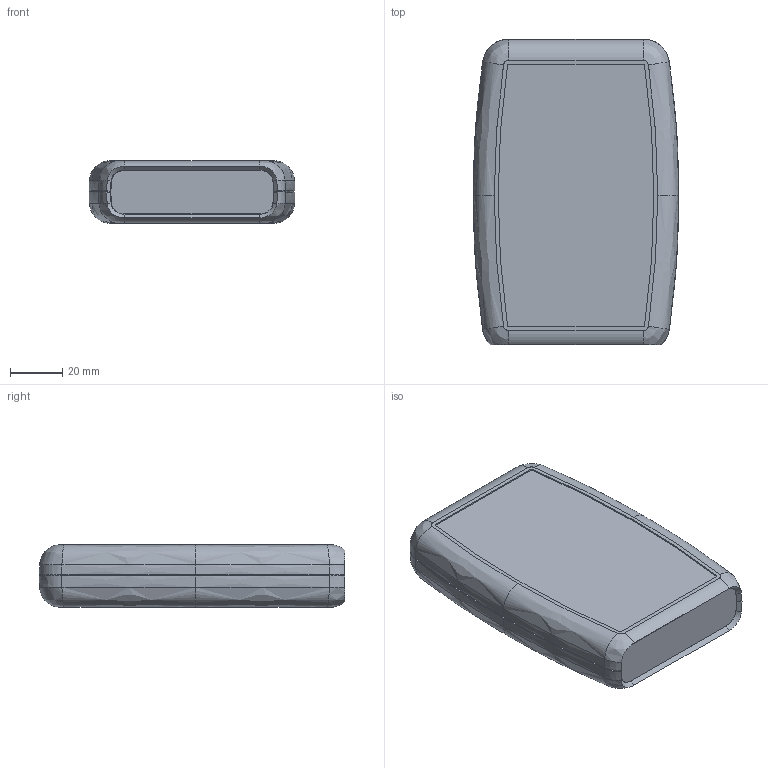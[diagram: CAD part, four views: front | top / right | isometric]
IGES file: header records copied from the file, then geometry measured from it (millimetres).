
Global section: file name: 1553B.iam; native system: Autodesk Inventor 2016; preprocessor: unknown; author: rboehler; date: 20151222.090311; units: millimetre
Bounding box: 79 x 117.24 x 24 mm (x, y, z)
Volume: 74923.9 mm3; surface area: 78432.7 mm2
Topology: 10 solids, 10 shells, 617 faces, 1658 edges, 1096 vertices
Faces by surface type: plane 282, bspline 257, revolution 44, cylinder 18, cone 14, sphere 2
Full cylindrical faces by diameter (mm): 2.845 x2
